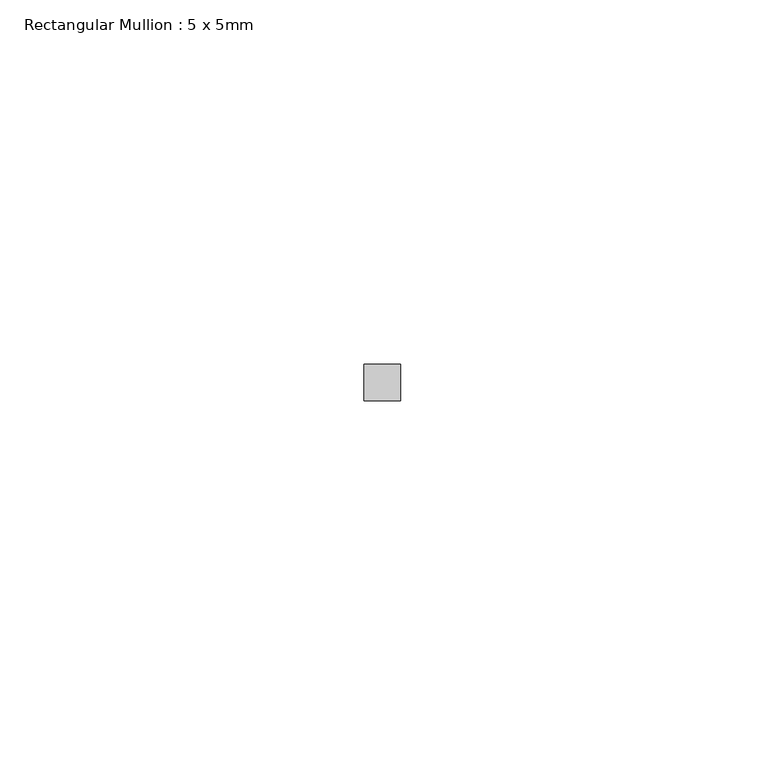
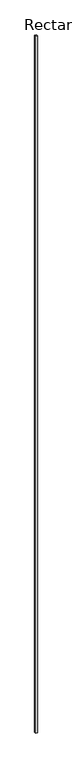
"""IFC4 building model written with IfcOpenShell, lengths in millimetres: member geometry, Rectangular Mullion : 5 x 5mm."""

import ifcopenshell
import ifcopenshell.guid

model = None  # the IFC model being written
_history = None  # IfcOwnerHistory: only IFC2X3 demands one
_inside = {}  # id of a spatial element -> (the spatial element, [elements in it])
_under = {}  # id of a project, library or spatial element -> (it, [spatial elements below it])
_declared = {}  # id of a project -> (the project, [libraries it declares])
_typed = {}  # id of a type object -> (the type object, [elements of that type])
_made_of = {}  # id of a material, layer set ... -> (it, [elements and type objects made of it])


def new_model(schema):
    """Start an empty IFC model of exactly this schema.

    Asked for "IFC4X3", IfcOpenShell would pick the latest addendum, in which some entities
    have other attributes; the version numbers below select the first issue.
    IFC2X3 requires an IfcOwnerHistory on every rooted entity: one is made here for all.
    """
    global model, _history
    if schema == "IFC4X3":
        model = ifcopenshell.file(schema_version=(4, 3, 0, 0))
    else:
        model = ifcopenshell.file(schema=schema)
    _inside.clear()
    _under.clear()
    _declared.clear()
    _typed.clear()
    _made_of.clear()
    _history = None
    if model.schema == "IFC2X3":
        org = make("IfcOrganization", Name="unknown")
        user = make(
            "IfcPersonAndOrganization",
            ThePerson=make("IfcPerson", FamilyName="unknown"),
            TheOrganization=org,
        )
        app = make(
            "IfcApplication",
            ApplicationDeveloper=org,
            Version="unknown",
            ApplicationFullName="unknown",
            ApplicationIdentifier="unknown",
        )
        _history = make(
            "IfcOwnerHistory",
            OwningUser=user,
            OwningApplication=app,
            ChangeAction="ADDED",
            CreationDate=0,
        )
    return model


def make(cls, **values):
    """One entity of the class cls with the attributes given. An attribute that is None is left unset."""
    return model.create_entity(
        cls, **{name: value for name, value in values.items() if value is not None}
    )


def rooted(cls, **values):
    """An entity with a GlobalId (a new one), such as an element, a storey or a relation."""
    return make(cls, GlobalId=ifcopenshell.guid.new(), OwnerHistory=_history, **values)


def si_unit(unit_type, name, prefix=None):
    """IfcSIUnit, for example si_unit("LENGTHUNIT", "METRE", prefix="MILLI")."""
    return make("IfcSIUnit", UnitType=unit_type, Prefix=prefix, Name=name)


def assignment(units):
    """IfcUnitAssignment: the units of a project."""
    return None if units is None else make("IfcUnitAssignment", Units=units)


def point(xyz):
    """IfcCartesianPoint."""
    return None if xyz is None else make("IfcCartesianPoint", Coordinates=xyz)


def direction(xyz):
    """IfcDirection."""
    return None if xyz is None else make("IfcDirection", DirectionRatios=xyz)


def frame(location, z_axis=None, x_axis=None):
    """IfcAxis2Placement3D, a coordinate frame: its origin and axes. An axis left out is left unset."""
    return make(
        "IfcAxis2Placement3D",
        Location=point(location),
        Axis=direction(z_axis),
        RefDirection=direction(x_axis),
    )


def origin():
    """The frame at (0, 0, 0) with its axes left unset."""
    return frame((0.0, 0.0, 0.0))


def place(relative_to, where):
    """IfcLocalPlacement: puts the frame where relative to a parent placement (None: the world)."""
    return make(
        "IfcLocalPlacement", PlacementRelTo=relative_to, RelativePlacement=where
    )


def context(
    kind, dimensions, precision=None, world=None, true_north=None, identifier=None
):
    """IfcGeometricRepresentationContext, for example the 3D "Model" context."""
    return make(
        "IfcGeometricRepresentationContext",
        ContextIdentifier=identifier,
        ContextType=kind,
        CoordinateSpaceDimension=dimensions,
        Precision=precision,
        WorldCoordinateSystem=world,
        TrueNorth=true_north,
    )


def project(units=None, contexts=None):
    """IfcProject with its units and contexts."""
    return rooted(
        "IfcProject",
        Name="project",
        RepresentationContexts=contexts,
        UnitsInContext=assignment(units),
    )


def spatial(cls, under=None, at=None, **own):
    """A site, building, storey or space (cls), placed at a placement, below another one or the project."""
    s = rooted(cls, ObjectPlacement=at, **own)
    if under is not None:
        _under.setdefault(under.id(), (under, []))[1].append(s)
    return s


def polyline(points):
    """IfcPolyline through the points."""
    return make("IfcPolyline", Points=[point(p) for p in points])


def outline(outer, holes=None, kind="AREA"):
    """IfcArbitraryClosedProfileDef: a profile drawn as a closed curve; with holes, ...WithVoids."""
    if holes is None:
        return make("IfcArbitraryClosedProfileDef", ProfileType=kind, OuterCurve=outer)
    return make(
        "IfcArbitraryProfileDefWithVoids",
        ProfileType=kind,
        OuterCurve=outer,
        InnerCurves=holes,
    )


def extrude(swept, where, along, depth):
    """IfcExtrudedAreaSolid: the profile swept, set in the frame where, extruded along a direction by depth."""
    return make(
        "IfcExtrudedAreaSolid",
        SweptArea=swept,
        Position=where,
        ExtrudedDirection=direction(along),
        Depth=depth,
    )


def shape(context_of_items, identifier, shape_type, items):
    """IfcShapeRepresentation: the items that make up one representation, for example the "Body"."""
    return make(
        "IfcShapeRepresentation",
        ContextOfItems=context_of_items,
        RepresentationIdentifier=identifier,
        RepresentationType=shape_type,
        Items=items,
    )


def source(mapping_origin, context_of_items, identifier, shape_type, items):
    """IfcRepresentationMap: a shape defined once, which mapped items show again and again."""
    return make(
        "IfcRepresentationMap",
        MappingOrigin=mapping_origin,
        MappedRepresentation=shape(context_of_items, identifier, shape_type, items),
    )


def transform(
    local_origin,
    x_axis=None,
    y_axis=None,
    z_axis=None,
    scale=None,
    scale2=None,
    scale3=None,
    uniform=True,
):
    """IfcCartesianTransformationOperator3D, or its non-uniform kind. x_axis, y_axis, z_axis: its Axis1, 2, 3."""
    if uniform:
        return make(
            "IfcCartesianTransformationOperator3D",
            Axis1=direction(x_axis),
            Axis2=direction(y_axis),
            LocalOrigin=point(local_origin),
            Scale=scale,
            Axis3=direction(z_axis),
        )
    return make(
        "IfcCartesianTransformationOperator3DnonUniform",
        Axis1=direction(x_axis),
        Axis2=direction(y_axis),
        LocalOrigin=point(local_origin),
        Scale=scale,
        Axis3=direction(z_axis),
        Scale2=scale2,
        Scale3=scale3,
    )


def mapped(mapping_source, mapping_target):
    """IfcMappedItem: shows the shape of a source again, moved by a transform."""
    return make(
        "IfcMappedItem", MappingSource=mapping_source, MappingTarget=mapping_target
    )


def made_of(thing, what):
    """Note that an element or type object is made of a material, layer set ...; save() writes the relation."""
    if what is not None:
        _made_of.setdefault(what.id(), (what, []))[1].append(thing)
    return thing


def element(
    cls,
    number,
    at=None,
    inside=None,
    cuts=None,
    type_object=None,
    material=None,
    context=None,
    identifier="Body",
    shape_type=None,
    held_by="IfcProductDefinitionShape",
    body=None,
    shapes=None,
    **own,
):
    """One element of the class cls, such as IfcWall. Its Tag is "e" and its number.

    at: its placement. inside: the storey or other place that contains it. cuts: it is an
    opening in that element (IfcRelVoidsElement). A single representation is given by context,
    identifier, shape_type and body (its items); several are given by shapes. held_by: the class
    of the entity that holds the representations. save() writes the other relations.
    """
    e = rooted(cls, Tag="e%d" % number, ObjectPlacement=at, **own)
    if body is not None:
        shapes = [shape(context, identifier, shape_type, body)]
    if shapes is not None:
        e.Representation = make(held_by, Representations=shapes)
    if inside is not None:
        _inside.setdefault(inside.id(), (inside, []))[1].append(e)
    if cuts is not None:
        rooted(
            "IfcRelVoidsElement", RelatingBuildingElement=cuts, RelatedOpeningElement=e
        )
    if type_object is not None:
        _typed.setdefault(type_object.id(), (type_object, []))[1].append(e)
    return made_of(e, material)


def aggregate(whole, parts):
    """IfcRelAggregates: a whole, such as a stair, and the parts it consists of."""
    return rooted("IfcRelAggregates", RelatingObject=whole, RelatedObjects=parts)


def save(model, path):
    """Write the relations noted so far, then the file.

    IfcRelAggregates (storeys below a building ...), IfcRelContainedInSpatialStructure (elements
    in a storey), IfcRelDefinesByType, IfcRelAssociatesMaterial and IfcRelDeclares: one each for
    every whole, place, type object, material and project.
    """
    for whole, parts in _under.values():
        aggregate(whole, parts)
    for where, things in _inside.values():
        rooted(
            "IfcRelContainedInSpatialStructure",
            RelatedElements=things,
            RelatingStructure=where,
        )
    for kind, things in _typed.values():
        rooted("IfcRelDefinesByType", RelatedObjects=things, RelatingType=kind)
    for what, things in _made_of.values():
        rooted("IfcRelAssociatesMaterial", RelatedObjects=things, RelatingMaterial=what)
    for by, libraries in _declared.values():
        rooted("IfcRelDeclares", RelatingContext=by, RelatedDefinitions=libraries)
    model.write(path)


def rectangular_mullion_5_x_5mm_bef206a9(model_context):
    return source(origin(), model_context, "Body", "SweptSolid", [
        extrude(outline(polyline([(2.5, 2.5), (2.5, -2.5), (-2.5, -2.5), (-2.5, 2.5), (2.5, 2.5)])), frame((0.0, 0.0, -2184.8011538), z_axis=(0.0, 0.0, 1.0), x_axis=(1.0, 0.0, 0.0)), (0.0, 0.0, 1.0), 2184.8011538),
    ])


if __name__ == "__main__":
    model = new_model("IFC4")
    model_context = context("Model", 3, world=origin())
    ifc_project = project(units=[si_unit("LENGTHUNIT", "METRE", prefix="MILLI")], contexts=[model_context])
    site = spatial("IfcSite", under=ifc_project)
    building = spatial("IfcBuilding", under=site)
    placement = place(None, origin())
    rectangular_mullion_5_x_5mm_shape = rectangular_mullion_5_x_5mm_bef206a9(model_context)
    element("IfcMember", 1, ObjectType="Rectangular Mullion : 5 x 5mm", at=placement, inside=building, context=model_context, shape_type="MappedRepresentation", body=[
        mapped(rectangular_mullion_5_x_5mm_shape, transform((0.0, 0.0, 0.0), x_axis=(1.0, 0.0, 0.0), y_axis=(0.0, 1.0, 0.0), z_axis=(0.0, 0.0, 1.0))),
    ])
    save(model, "model.ifc")
